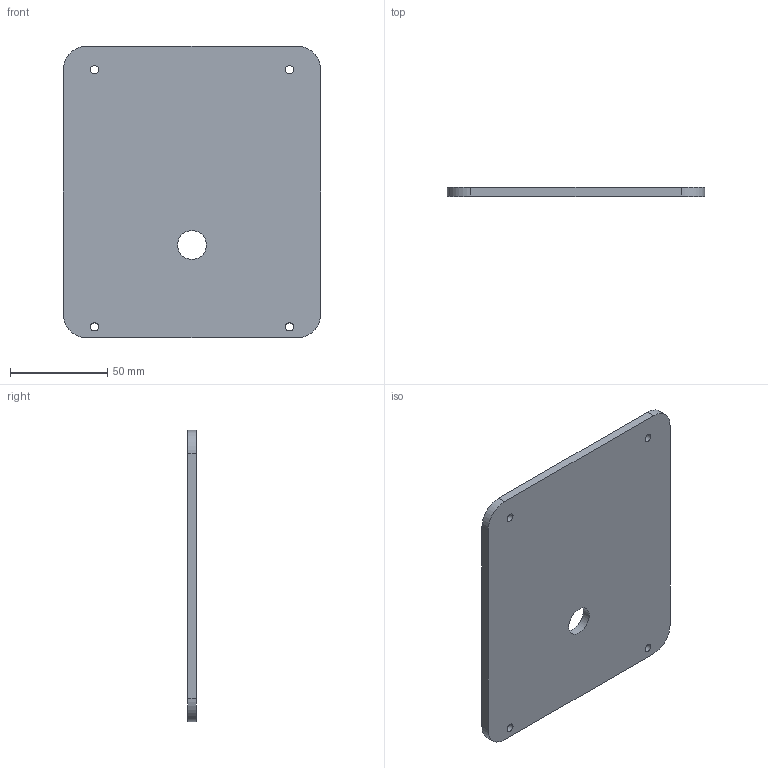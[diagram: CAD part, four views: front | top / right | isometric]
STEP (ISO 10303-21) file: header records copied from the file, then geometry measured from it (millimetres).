
FILE_DESCRIPTION(('FreeCAD Model'),'2;1');
FILE_NAME('Open CASCADE Shape Model','2026-10-14T02:29:02',('FreeCAD'),( 'FreeCAD'),'Open CASCADE STEP processor 7.8','FreeCAD','Unknown');
FILE_SCHEMA(('AUTOMOTIVE_DESIGN { 1 0 10303 214 1 1 1 1 }'));
Length unit declared in the file: millimetre
Products named in the file (1): Open CASCADE STEP translator 7.8 47
Bounding box: 132 x 4.4 x 149.6 mm (x, y, z)
Volume: 85343 mm3; surface area: 41616.5 mm2
Topology: 1 solids, 1 shells, 15 faces, 39 edges, 26 vertices
Faces by surface type: cylinder 9, plane 6
Full cylindrical faces by diameter (mm): 4.2 x4, 14.8 x1
Entity records: 501 total; most frequent: DIRECTION 89, CARTESIAN_POINT 81, ORIENTED_EDGE 78, EDGE_CURVE 39, AXIS2_PLACEMENT_3D 34, VERTEX_POINT 26, FACE_BOUND 25, EDGE_LOOP 25
